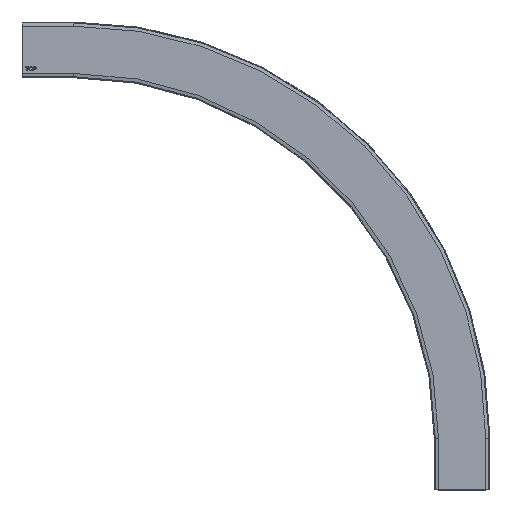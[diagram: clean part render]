
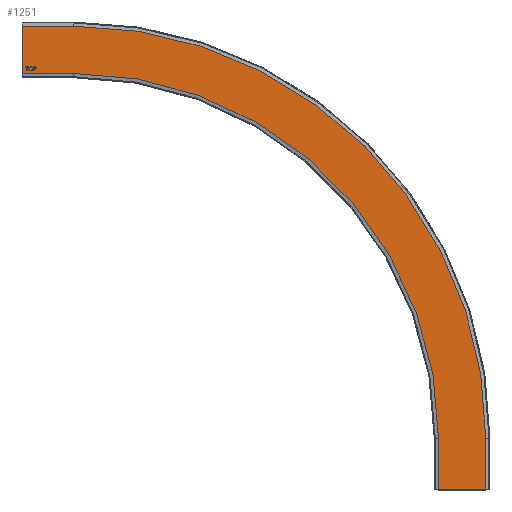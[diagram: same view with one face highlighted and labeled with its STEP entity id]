
A CAD part, top view. The second image highlights one B-rep face of the part: STEP entity #1251.
In plain terms, the highlighted planar face has unit normal (0, 0, 1).
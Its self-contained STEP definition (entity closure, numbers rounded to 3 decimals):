
#243=CARTESIAN_POINT('',(10.621,-29.49,0.0));
#244=VERTEX_POINT('',#243);
#251=CARTESIAN_POINT('',(13.541,-32.563,0.0));
#252=VERTEX_POINT('',#251);
#253=CARTESIAN_POINT('',(13.541,-32.563,0.0));
#254=CARTESIAN_POINT('',(12.676,-32.563,0.0));
#255=CARTESIAN_POINT('',(11.319,-31.731,0.0));
#256=CARTESIAN_POINT('',(10.621,-30.294,0.0));
#257=CARTESIAN_POINT('',(10.621,-29.49,0.0));
#258=QUASI_UNIFORM_CURVE('',2,(#253,#254,#255,#256,#257),.UNSPECIFIED.,.F.,.U.);
#259=EDGE_CURVE('',#252,#244,#258,.T.);
#292=CARTESIAN_POINT('',(16.456,-29.42,0.0));
#293=VERTEX_POINT('',#292);
#294=CARTESIAN_POINT('',(16.456,-29.42,0.0));
#295=CARTESIAN_POINT('',(16.456,-30.346,0.0));
#296=CARTESIAN_POINT('',(15.708,-31.81,0.0));
#297=CARTESIAN_POINT('',(14.331,-32.563,0.0));
#298=CARTESIAN_POINT('',(13.541,-32.563,0.0));
#299=QUASI_UNIFORM_CURVE('',2,(#294,#295,#296,#297,#298),.UNSPECIFIED.,.F.,.U.);
#300=EDGE_CURVE('',#293,#252,#299,.T.);
#333=CARTESIAN_POINT('',(13.541,-26.254,0.0));
#334=VERTEX_POINT('',#333);
#335=CARTESIAN_POINT('',(13.541,-26.254,0.0));
#336=CARTESIAN_POINT('',(14.387,-26.254,0.0));
#337=CARTESIAN_POINT('',(15.745,-27.063,0.0));
#338=CARTESIAN_POINT('',(16.456,-28.504,0.0));
#339=CARTESIAN_POINT('',(16.456,-29.42,0.0));
#340=QUASI_UNIFORM_CURVE('',2,(#335,#336,#337,#338,#339),.UNSPECIFIED.,.F.,.U.);
#341=EDGE_CURVE('',#334,#293,#340,.T.);
#369=CARTESIAN_POINT('',(10.621,-29.49,0.0));
#370=CARTESIAN_POINT('',(10.621,-27.97,0.0));
#371=CARTESIAN_POINT('',(12.253,-26.254,0.0));
#372=CARTESIAN_POINT('',(13.541,-26.254,0.0));
#373=QUASI_UNIFORM_CURVE('',2,(#369,#370,#371,#372),.UNSPECIFIED.,.F.,.U.);
#374=EDGE_CURVE('',#244,#334,#373,.T.);
#413=CARTESIAN_POINT('',(7.208,-32.461,0.0));
#414=VERTEX_POINT('',#413);
#421=CARTESIAN_POINT('',(8.017,-32.461,0.0));
#422=VERTEX_POINT('',#421);
#423=CARTESIAN_POINT('',(8.017,-32.461,0.0));
#424=DIRECTION('',(-1.0,0.0,0.0));
#425=VECTOR('',#424,0.809);
#426=LINE('',#423,#425);
#427=EDGE_CURVE('',#422,#414,#426,.T.);
#452=CARTESIAN_POINT('',(8.017,-27.082,0.0));
#453=VERTEX_POINT('',#452);
#454=CARTESIAN_POINT('',(8.017,-27.082,0.0));
#455=DIRECTION('',(0.0,-1.0,0.0));
#456=VECTOR('',#455,5.379);
#457=LINE('',#454,#456);
#458=EDGE_CURVE('',#453,#422,#457,.T.);
#483=CARTESIAN_POINT('',(10.035,-27.082,0.0));
#484=VERTEX_POINT('',#483);
#485=CARTESIAN_POINT('',(10.035,-27.082,0.0));
#486=DIRECTION('',(-1.0,0.0,0.0));
#487=VECTOR('',#486,2.018);
#488=LINE('',#485,#487);
#489=EDGE_CURVE('',#484,#453,#488,.T.);
#514=CARTESIAN_POINT('',(10.035,-26.361,0.0));
#515=VERTEX_POINT('',#514);
#516=CARTESIAN_POINT('',(10.035,-26.361,0.0));
#517=DIRECTION('',(0.0,-1.0,0.0));
#518=VECTOR('',#517,0.721);
#519=LINE('',#516,#518);
#520=EDGE_CURVE('',#515,#484,#519,.T.);
#545=CARTESIAN_POINT('',(5.2,-26.361,0.0));
#546=VERTEX_POINT('',#545);
#547=CARTESIAN_POINT('',(5.2,-26.361,0.0));
#548=DIRECTION('',(1.0,0.0,0.0));
#549=VECTOR('',#548,4.835);
#550=LINE('',#547,#549);
#551=EDGE_CURVE('',#546,#515,#550,.T.);
#576=CARTESIAN_POINT('',(5.2,-27.082,0.0));
#577=VERTEX_POINT('',#576);
#578=CARTESIAN_POINT('',(5.2,-27.082,0.0));
#579=DIRECTION('',(0.0,1.0,0.0));
#580=VECTOR('',#579,0.721);
#581=LINE('',#578,#580);
#582=EDGE_CURVE('',#577,#546,#581,.T.);
#607=CARTESIAN_POINT('',(7.208,-27.082,0.0));
#608=VERTEX_POINT('',#607);
#609=CARTESIAN_POINT('',(7.208,-27.082,0.0));
#610=DIRECTION('',(-1.0,0.0,0.0));
#611=VECTOR('',#610,2.009);
#612=LINE('',#609,#611);
#613=EDGE_CURVE('',#608,#577,#612,.T.);
#636=CARTESIAN_POINT('',(7.208,-32.461,0.0));
#637=DIRECTION('',(0.0,1.0,0.0));
#638=VECTOR('',#637,5.379);
#639=LINE('',#636,#638);
#640=EDGE_CURVE('',#414,#608,#639,.T.);
#877=CARTESIAN_POINT('',(17.493,-32.461,0.0));
#878=VERTEX_POINT('',#877);
#885=CARTESIAN_POINT('',(18.302,-32.461,0.0));
#886=VERTEX_POINT('',#885);
#887=CARTESIAN_POINT('',(18.302,-32.461,0.0));
#888=DIRECTION('',(-1.0,0.0,0.0));
#889=VECTOR('',#888,0.809);
#890=LINE('',#887,#889);
#891=EDGE_CURVE('',#886,#878,#890,.T.);
#916=CARTESIAN_POINT('',(18.302,-29.983,0.0));
#917=VERTEX_POINT('',#916);
#918=CARTESIAN_POINT('',(18.302,-29.983,0.0));
#919=DIRECTION('',(0.0,-1.0,0.0));
#920=VECTOR('',#919,2.478);
#921=LINE('',#918,#920);
#922=EDGE_CURVE('',#917,#886,#921,.T.);
#947=CARTESIAN_POINT('',(19.869,-29.983,0.0));
#948=VERTEX_POINT('',#947);
#949=CARTESIAN_POINT('',(19.869,-29.983,0.0));
#950=DIRECTION('',(-1.0,0.0,0.0));
#951=VECTOR('',#950,1.567);
#952=LINE('',#949,#951);
#953=EDGE_CURVE('',#948,#917,#952,.T.);
#983=CARTESIAN_POINT('',(22.152,-28.128,0.0));
#984=VERTEX_POINT('',#983);
#985=CARTESIAN_POINT('',(22.152,-28.128,0.0));
#986=CARTESIAN_POINT('',(22.152,-28.904,0.0));
#987=CARTESIAN_POINT('',(21.161,-29.983,0.0));
#988=CARTESIAN_POINT('',(19.869,-29.983,0.0));
#989=QUASI_UNIFORM_CURVE('',2,(#985,#986,#987,#988),.UNSPECIFIED.,.F.,.U.);
#990=EDGE_CURVE('',#984,#948,#989,.T.);
#1023=CARTESIAN_POINT('',(20.724,-26.422,0.0));
#1024=VERTEX_POINT('',#1023);
#1025=CARTESIAN_POINT('',(20.724,-26.422,0.0));
#1026=CARTESIAN_POINT('',(21.175,-26.496,0.0));
#1027=CARTESIAN_POINT('',(21.78,-26.914,0.0));
#1028=CARTESIAN_POINT('',(22.152,-27.672,0.0));
#1029=CARTESIAN_POINT('',(22.152,-28.128,0.0));
#1030=QUASI_UNIFORM_CURVE('',2,(#1025,#1026,#1027,#1028,#1029),.UNSPECIFIED.,.F.,.U.);
#1031=EDGE_CURVE('',#1024,#984,#1030,.T.);
#1058=CARTESIAN_POINT('',(19.794,-26.361,0.0));
#1059=VERTEX_POINT('',#1058);
#1060=CARTESIAN_POINT('',(19.794,-26.361,0.0));
#1061=CARTESIAN_POINT('',(20.403,-26.361,0.0));
#1062=CARTESIAN_POINT('',(20.724,-26.422,0.0));
#1063=QUASI_UNIFORM_CURVE('',2,(#1060,#1061,#1062),.UNSPECIFIED.,.F.,.U.);
#1064=EDGE_CURVE('',#1059,#1024,#1063,.T.);
#1089=CARTESIAN_POINT('',(17.493,-26.361,0.0));
#1090=VERTEX_POINT('',#1089);
#1091=CARTESIAN_POINT('',(17.493,-26.361,0.0));
#1092=DIRECTION('',(1.0,0.0,0.0));
#1093=VECTOR('',#1092,2.301);
#1094=LINE('',#1091,#1093);
#1095=EDGE_CURVE('',#1090,#1059,#1094,.T.);
#1118=CARTESIAN_POINT('',(17.493,-32.461,0.0));
#1119=DIRECTION('',(0.0,1.0,0.0));
#1120=VECTOR('',#1119,6.1);
#1121=LINE('',#1118,#1120);
#1122=EDGE_CURVE('',#878,#1090,#1121,.T.);
#1152=CARTESIAN_POINT('',(0.0,0.0,0.0));
#1153=DIRECTION('',(0.0,0.0,1.0));
#1154=DIRECTION('',(1.0,0.0,0.0));
#1155=AXIS2_PLACEMENT_3D('',#1152,#1153,#1154);
#1156=PLANE('',#1155);
#1157=CARTESIAN_POINT('',(0.0,36.5,0.0));
#1158=VERTEX_POINT('',#1157);
#1159=CARTESIAN_POINT('',(80.0,36.5,0.0));
#1160=VERTEX_POINT('',#1159);
#1161=CARTESIAN_POINT('',(0.0,36.5,0.0));
#1162=DIRECTION('',(1.0,0.0,0.0));
#1163=VECTOR('',#1162,80.0);
#1164=LINE('',#1161,#1163);
#1165=EDGE_CURVE('',#1158,#1160,#1164,.T.);
#1166=ORIENTED_EDGE('',*,*,#1165,.F.);
#1167=CARTESIAN_POINT('',(0.0,-36.5,0.0));
#1168=VERTEX_POINT('',#1167);
#1169=CARTESIAN_POINT('',(0.0,36.5,0.0));
#1170=DIRECTION('',(0.0,-1.0,0.0));
#1171=VECTOR('',#1170,73.0);
#1172=LINE('',#1169,#1171);
#1173=EDGE_CURVE('',#1158,#1168,#1172,.T.);
#1174=ORIENTED_EDGE('',*,*,#1173,.T.);
#1175=CARTESIAN_POINT('',(80.0,-36.5,0.0));
#1176=VERTEX_POINT('',#1175);
#1177=CARTESIAN_POINT('',(0.0,-36.5,0.0));
#1178=DIRECTION('',(1.0,0.0,0.0));
#1179=VECTOR('',#1178,80.0);
#1180=LINE('',#1177,#1179);
#1181=EDGE_CURVE('',#1168,#1176,#1180,.T.);
#1182=ORIENTED_EDGE('',*,*,#1181,.T.);
#1183=CARTESIAN_POINT('',(643.5,-600.,0.0));
#1184=VERTEX_POINT('',#1183);
#1185=CARTESIAN_POINT('',(80.0,-600.0,0.0));
#1186=DIRECTION('',(0.0,0.0,-1.0));
#1187=DIRECTION('',(-1.0,0.0,0.0));
#1188=AXIS2_PLACEMENT_3D('',#1185,#1186,#1187);
#1189=CIRCLE('',#1188,563.5);
#1190=EDGE_CURVE('',#1176,#1184,#1189,.T.);
#1191=ORIENTED_EDGE('',*,*,#1190,.T.);
#1192=CARTESIAN_POINT('',(643.5,-680.0,0.0));
#1193=VERTEX_POINT('',#1192);
#1194=CARTESIAN_POINT('',(643.5,-600.,0.0));
#1195=DIRECTION('',(0.0,-1.0,0.0));
#1196=VECTOR('',#1195,80.);
#1197=LINE('',#1194,#1196);
#1198=EDGE_CURVE('',#1184,#1193,#1197,.T.);
#1199=ORIENTED_EDGE('',*,*,#1198,.T.);
#1200=CARTESIAN_POINT('',(716.5,-680.0,0.0));
#1201=VERTEX_POINT('',#1200);
#1202=CARTESIAN_POINT('',(643.5,-680.,0.0));
#1203=DIRECTION('',(1.0,0.0,0.0));
#1204=VECTOR('',#1203,73.);
#1205=LINE('',#1202,#1204);
#1206=EDGE_CURVE('',#1193,#1201,#1205,.T.);
#1207=ORIENTED_EDGE('',*,*,#1206,.T.);
#1208=CARTESIAN_POINT('',(716.5,-600.,0.0));
#1209=VERTEX_POINT('',#1208);
#1210=CARTESIAN_POINT('',(716.5,-600.,0.0));
#1211=DIRECTION('',(0.0,-1.0,0.0));
#1212=VECTOR('',#1211,80.);
#1213=LINE('',#1210,#1212);
#1214=EDGE_CURVE('',#1209,#1201,#1213,.T.);
#1215=ORIENTED_EDGE('',*,*,#1214,.F.);
#1216=CARTESIAN_POINT('',(80.0,-600.0,0.0));
#1217=DIRECTION('',(0.0,0.0,-1.0));
#1218=DIRECTION('',(-1.0,0.0,0.0));
#1219=AXIS2_PLACEMENT_3D('',#1216,#1217,#1218);
#1220=CIRCLE('',#1219,636.5);
#1221=EDGE_CURVE('',#1160,#1209,#1220,.T.);
#1222=ORIENTED_EDGE('',*,*,#1221,.F.);
#1223=EDGE_LOOP('',(#1166,#1174,#1182,#1191,#1199,#1207,#1215,#1222));
#1224=FACE_OUTER_BOUND('',#1223,.T.);
#1225=ORIENTED_EDGE('',*,*,#259,.T.);
#1226=ORIENTED_EDGE('',*,*,#374,.T.);
#1227=ORIENTED_EDGE('',*,*,#341,.T.);
#1228=ORIENTED_EDGE('',*,*,#300,.T.);
#1229=EDGE_LOOP('',(#1225,#1226,#1227,#1228));
#1230=FACE_BOUND('',#1229,.T.);
#1231=ORIENTED_EDGE('',*,*,#427,.T.);
#1232=ORIENTED_EDGE('',*,*,#640,.T.);
#1233=ORIENTED_EDGE('',*,*,#613,.T.);
#1234=ORIENTED_EDGE('',*,*,#582,.T.);
#1235=ORIENTED_EDGE('',*,*,#551,.T.);
#1236=ORIENTED_EDGE('',*,*,#520,.T.);
#1237=ORIENTED_EDGE('',*,*,#489,.T.);
#1238=ORIENTED_EDGE('',*,*,#458,.T.);
#1239=EDGE_LOOP('',(#1231,#1232,#1233,#1234,#1235,#1236,#1237,#1238));
#1240=FACE_BOUND('',#1239,.T.);
#1241=ORIENTED_EDGE('',*,*,#891,.T.);
#1242=ORIENTED_EDGE('',*,*,#1122,.T.);
#1243=ORIENTED_EDGE('',*,*,#1095,.T.);
#1244=ORIENTED_EDGE('',*,*,#1064,.T.);
#1245=ORIENTED_EDGE('',*,*,#1031,.T.);
#1246=ORIENTED_EDGE('',*,*,#990,.T.);
#1247=ORIENTED_EDGE('',*,*,#953,.T.);
#1248=ORIENTED_EDGE('',*,*,#922,.T.);
#1249=EDGE_LOOP('',(#1241,#1242,#1243,#1244,#1245,#1246,#1247,#1248));
#1250=FACE_BOUND('',#1249,.T.);
#1251=ADVANCED_FACE('',(#1224,#1230,#1240,#1250),#1156,.T.);
